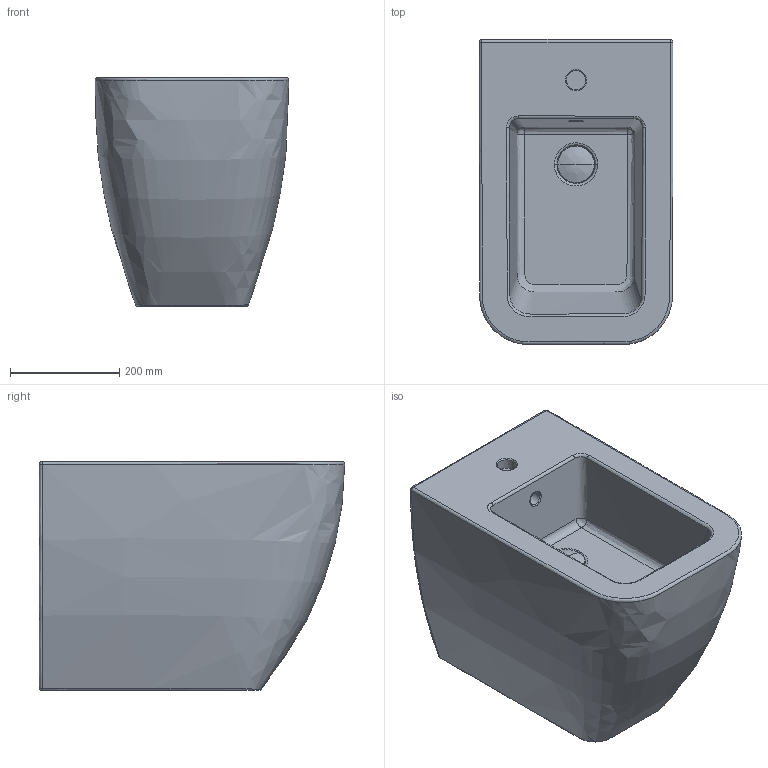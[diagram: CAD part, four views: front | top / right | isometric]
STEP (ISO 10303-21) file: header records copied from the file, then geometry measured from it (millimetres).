
FILE_DESCRIPTION(/* description */ (''),/* implementation_level */ '2;1');
FILE_NAME(/* name */ 'QUADRA~1',/* time_stamp */ '2020-08-28T10:22:18+02:00',/* author */ (''),/* organization */ (''),/* preprocessor_version */ 'ST-DEVELOPER v15',/* originating_system */ '',/* authorisation */ '');
FILE_SCHEMA (('AUTOMOTIVE_DESIGN'));
Length unit declared in the file: millimetre
Products named in the file (1): Document
Bounding box: 355.23 x 559.94 x 420 mm (x, y, z)
Volume: 25500.3 mm3; surface area: 1074106.3 mm2
Topology: 1 solids, 2 shells, 45 faces, 100 edges, 59 vertices
Faces by surface type: bspline 39, plane 6
Entity records: 4815 total; most frequent: CARTESIAN_POINT 4261, ORIENTED_EDGE 186, EDGE_CURVE 94, VERTEX_POINT 56, EDGE_LOOP 49, ADVANCED_FACE 45, FACE_OUTER_BOUND 45, DIRECTION 14
